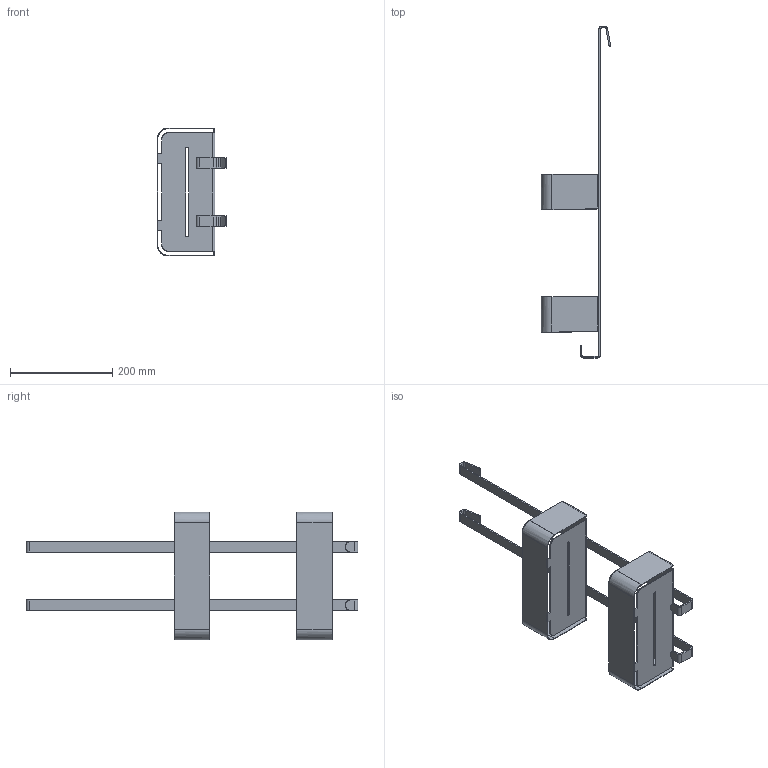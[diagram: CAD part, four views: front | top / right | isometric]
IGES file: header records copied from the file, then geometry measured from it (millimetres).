
Start section: SolidWorks IGES file using analytic representation for surfaces
Global section: file name: 3H\\192.168.0.131\技术部文档\确认图\置物架\SSD-G1\SSD-G1-确认.IGS; native system: SolidWorks 2021; preprocessor: SolidWorks 2021; author: Administrator; date: 260416.165202; units: millimetre
Bounding box: 136.05 x 650 x 250 mm (x, y, z)
Surface area: 360301.1 mm2 (no closed solid volume)
Topology: 0 solids, 0 shells, 190 faces, 1620 edges, 1620 vertices
Faces by surface type: bspline 142, revolution 48
